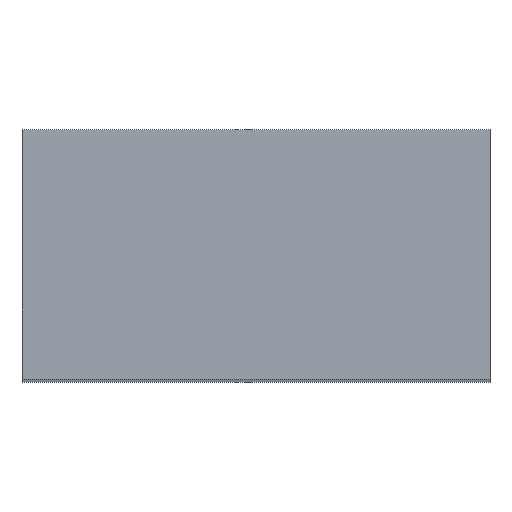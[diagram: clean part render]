
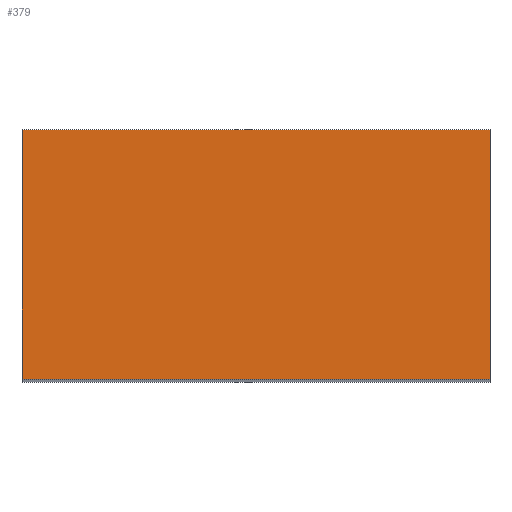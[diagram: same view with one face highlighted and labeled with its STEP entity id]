
A CAD part, top view. The second image highlights one B-rep face of the part: STEP entity #379.
In plain terms, the highlighted planar face has unit normal (0, 0, 1).
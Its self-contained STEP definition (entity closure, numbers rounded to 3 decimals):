
#65 = VERTEX_POINT('',#66);
#66 = CARTESIAN_POINT('',(-0.75,-0.4,3.));
#73 = PLANE('',#74);
#74 = AXIS2_PLACEMENT_3D('',#75,#76,#77);
#75 = CARTESIAN_POINT('',(-0.75,-0.4,-3.));
#76 = DIRECTION('',(1.,0.,0.));
#77 = DIRECTION('',(0.,0.,1.));
#85 = PLANE('',#86);
#86 = AXIS2_PLACEMENT_3D('',#87,#88,#89);
#87 = CARTESIAN_POINT('',(-0.75,-0.4,-3.));
#88 = DIRECTION('',(0.,1.,0.));
#89 = DIRECTION('',(0.,-0.,1.));
#126 = VERTEX_POINT('',#127);
#127 = CARTESIAN_POINT('',(-0.75,0.4,3.));
#141 = PLANE('',#142);
#142 = AXIS2_PLACEMENT_3D('',#143,#144,#145);
#143 = CARTESIAN_POINT('',(-0.75,0.4,-3.));
#144 = DIRECTION('',(0.,1.,0.));
#145 = DIRECTION('',(0.,-0.,1.));
#153 = EDGE_CURVE('',#65,#126,#154,.T.);
#154 = SURFACE_CURVE('',#155,(#159,#166),.PCURVE_S1.);
#155 = LINE('',#156,#157);
#156 = CARTESIAN_POINT('',(-0.75,-0.4,3.));
#157 = VECTOR('',#158,1.);
#158 = DIRECTION('',(0.,1.,0.));
#159 = PCURVE('',#73,#160);
#160 = DEFINITIONAL_REPRESENTATION('',(#161),#165);
#161 = LINE('',#162,#163);
#162 = CARTESIAN_POINT('',(6.,0.));
#163 = VECTOR('',#164,1.);
#164 = DIRECTION('',(0.,-1.));
#165 = ( GEOMETRIC_REPRESENTATION_CONTEXT(2) 
PARAMETRIC_REPRESENTATION_CONTEXT() REPRESENTATION_CONTEXT('2D SPACE',''
  ) );
#166 = PCURVE('',#167,#172);
#167 = PLANE('',#168);
#168 = AXIS2_PLACEMENT_3D('',#169,#170,#171);
#169 = CARTESIAN_POINT('',(-0.75,-0.4,3.));
#170 = DIRECTION('',(0.,0.,1.));
#171 = DIRECTION('',(1.,0.,-0.));
#172 = DEFINITIONAL_REPRESENTATION('',(#173),#177);
#173 = LINE('',#174,#175);
#174 = CARTESIAN_POINT('',(0.,0.));
#175 = VECTOR('',#176,1.);
#176 = DIRECTION('',(0.,1.));
#177 = ( GEOMETRIC_REPRESENTATION_CONTEXT(2) 
PARAMETRIC_REPRESENTATION_CONTEXT() REPRESENTATION_CONTEXT('2D SPACE',''
  ) );
#185 = VERTEX_POINT('',#186);
#186 = CARTESIAN_POINT('',(0.75,-0.4,3.));
#193 = PLANE('',#194);
#194 = AXIS2_PLACEMENT_3D('',#195,#196,#197);
#195 = CARTESIAN_POINT('',(0.75,-0.4,-3.));
#196 = DIRECTION('',(1.,0.,0.));
#197 = DIRECTION('',(0.,0.,1.));
#236 = VERTEX_POINT('',#237);
#237 = CARTESIAN_POINT('',(0.75,0.4,3.));
#258 = EDGE_CURVE('',#185,#236,#259,.T.);
#259 = SURFACE_CURVE('',#260,(#264,#271),.PCURVE_S1.);
#260 = LINE('',#261,#262);
#261 = CARTESIAN_POINT('',(0.75,-0.4,3.));
#262 = VECTOR('',#263,1.);
#263 = DIRECTION('',(0.,1.,0.));
#264 = PCURVE('',#193,#265);
#265 = DEFINITIONAL_REPRESENTATION('',(#266),#270);
#266 = LINE('',#267,#268);
#267 = CARTESIAN_POINT('',(6.,0.));
#268 = VECTOR('',#269,1.);
#269 = DIRECTION('',(0.,-1.));
#270 = ( GEOMETRIC_REPRESENTATION_CONTEXT(2) 
PARAMETRIC_REPRESENTATION_CONTEXT() REPRESENTATION_CONTEXT('2D SPACE',''
  ) );
#271 = PCURVE('',#167,#272);
#272 = DEFINITIONAL_REPRESENTATION('',(#273),#277);
#273 = LINE('',#274,#275);
#274 = CARTESIAN_POINT('',(1.5,0.));
#275 = VECTOR('',#276,1.);
#276 = DIRECTION('',(0.,1.));
#277 = ( GEOMETRIC_REPRESENTATION_CONTEXT(2) 
PARAMETRIC_REPRESENTATION_CONTEXT() REPRESENTATION_CONTEXT('2D SPACE',''
  ) );
#304 = EDGE_CURVE('',#65,#185,#305,.T.);
#305 = SURFACE_CURVE('',#306,(#310,#317),.PCURVE_S1.);
#306 = LINE('',#307,#308);
#307 = CARTESIAN_POINT('',(-0.75,-0.4,3.));
#308 = VECTOR('',#309,1.);
#309 = DIRECTION('',(1.,0.,0.));
#310 = PCURVE('',#85,#311);
#311 = DEFINITIONAL_REPRESENTATION('',(#312),#316);
#312 = LINE('',#313,#314);
#313 = CARTESIAN_POINT('',(6.,0.));
#314 = VECTOR('',#315,1.);
#315 = DIRECTION('',(0.,1.));
#316 = ( GEOMETRIC_REPRESENTATION_CONTEXT(2) 
PARAMETRIC_REPRESENTATION_CONTEXT() REPRESENTATION_CONTEXT('2D SPACE',''
  ) );
#317 = PCURVE('',#167,#318);
#318 = DEFINITIONAL_REPRESENTATION('',(#319),#323);
#319 = LINE('',#320,#321);
#320 = CARTESIAN_POINT('',(0.,0.));
#321 = VECTOR('',#322,1.);
#322 = DIRECTION('',(1.,0.));
#323 = ( GEOMETRIC_REPRESENTATION_CONTEXT(2) 
PARAMETRIC_REPRESENTATION_CONTEXT() REPRESENTATION_CONTEXT('2D SPACE',''
  ) );
#351 = EDGE_CURVE('',#126,#236,#352,.T.);
#352 = SURFACE_CURVE('',#353,(#357,#364),.PCURVE_S1.);
#353 = LINE('',#354,#355);
#354 = CARTESIAN_POINT('',(-0.75,0.4,3.));
#355 = VECTOR('',#356,1.);
#356 = DIRECTION('',(1.,0.,0.));
#357 = PCURVE('',#141,#358);
#358 = DEFINITIONAL_REPRESENTATION('',(#359),#363);
#359 = LINE('',#360,#361);
#360 = CARTESIAN_POINT('',(6.,0.));
#361 = VECTOR('',#362,1.);
#362 = DIRECTION('',(0.,1.));
#363 = ( GEOMETRIC_REPRESENTATION_CONTEXT(2) 
PARAMETRIC_REPRESENTATION_CONTEXT() REPRESENTATION_CONTEXT('2D SPACE',''
  ) );
#364 = PCURVE('',#167,#365);
#365 = DEFINITIONAL_REPRESENTATION('',(#366),#370);
#366 = LINE('',#367,#368);
#367 = CARTESIAN_POINT('',(0.,0.8));
#368 = VECTOR('',#369,1.);
#369 = DIRECTION('',(1.,0.));
#370 = ( GEOMETRIC_REPRESENTATION_CONTEXT(2) 
PARAMETRIC_REPRESENTATION_CONTEXT() REPRESENTATION_CONTEXT('2D SPACE',''
  ) );
#379 = ADVANCED_FACE('',(#380),#167,.T.);
#380 = FACE_BOUND('',#381,.T.);
#381 = EDGE_LOOP('',(#382,#383,#384,#385));
#382 = ORIENTED_EDGE('',*,*,#153,.F.);
#383 = ORIENTED_EDGE('',*,*,#304,.T.);
#384 = ORIENTED_EDGE('',*,*,#258,.T.);
#385 = ORIENTED_EDGE('',*,*,#351,.F.);
